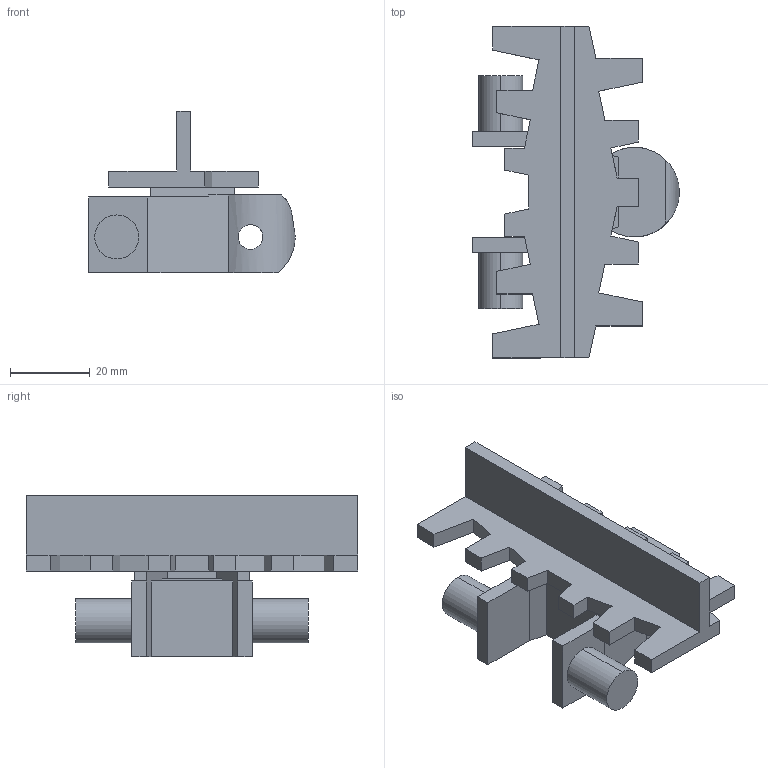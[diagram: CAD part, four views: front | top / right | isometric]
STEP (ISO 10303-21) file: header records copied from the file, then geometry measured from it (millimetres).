
FILE_DESCRIPTION (( 'STEP AP214' ), '1' );
FILE_NAME ('FMCT 5F15.step', '2017-04-04T13:34:31', ( '' ), ( '' ), 'SwSTEP 2.0', 'SolidWorks 2015', '' );
FILE_SCHEMA (( 'AUTOMOTIVE_DESIGN' ));
Length unit declared in the file: millimetre
Products named in the file (1): FMCT 5F15
Bounding box: 51.65 x 83 x 40.5 mm (x, y, z)
Volume: 30819.1 mm3; surface area: 14763.6 mm2
Topology: 1 solids, 1 shells, 92 faces, 259 edges, 171 vertices
Faces by surface type: plane 82, cylinder 10
Entity records: 3093 total; most frequent: CARTESIAN_POINT 687, ORIENTED_EDGE 518, DIRECTION 447, EDGE_CURVE 259, LINE 237, VECTOR 237, VERTEX_POINT 171, AXIS2_PLACEMENT_3D 105
